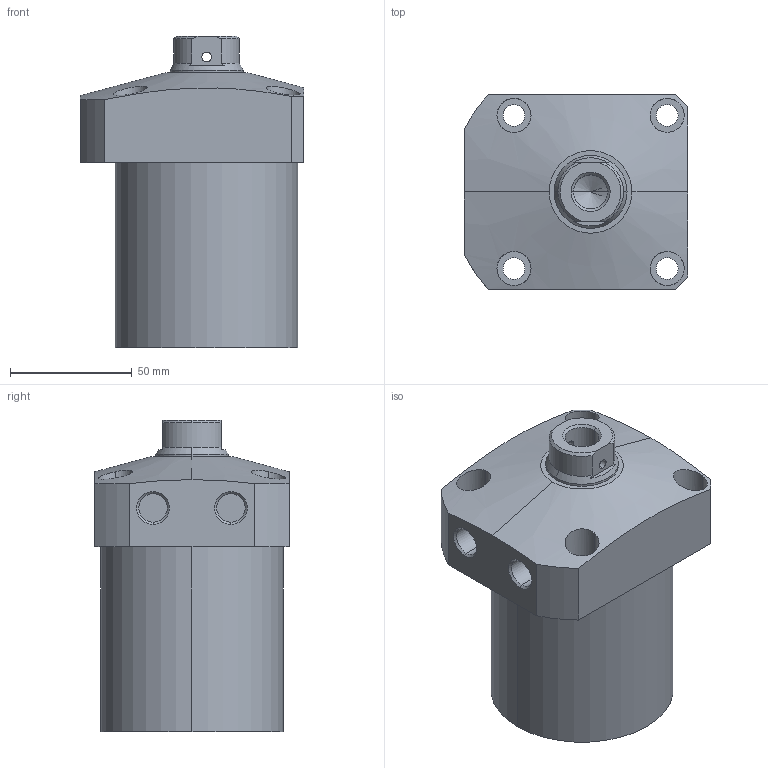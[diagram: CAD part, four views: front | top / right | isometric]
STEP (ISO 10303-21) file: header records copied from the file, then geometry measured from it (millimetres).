
FILE_DESCRIPTION (( 'STEP AP203' ), '1' );
FILE_NAME ('CLL-075CB-060.STEP', '2019-12-20T07:37:27', ( '' ), ( '' ), 'SwSTEP 2.0', 'SolidWorks 2015', '' );
FILE_SCHEMA (( 'CONFIG_CONTROL_DESIGN' ));
Length unit declared in the file: millimetre
Products named in the file (1): CLL-075CB-060
Bounding box: 92 x 80 x 128 mm (x, y, z)
Volume: 558328.4 mm3; surface area: 49261.7 mm2
Topology: 1 solids, 1 shells, 76 faces, 181 edges, 116 vertices
Faces by surface type: cylinder 39, plane 22, cone 15
Entity records: 2809 total; most frequent: CARTESIAN_POINT 932, DIRECTION 386, ORIENTED_EDGE 358, EDGE_CURVE 179, AXIS2_PLACEMENT_3D 158, VERTEX_POINT 116, EDGE_LOOP 99, CIRCLE 81
